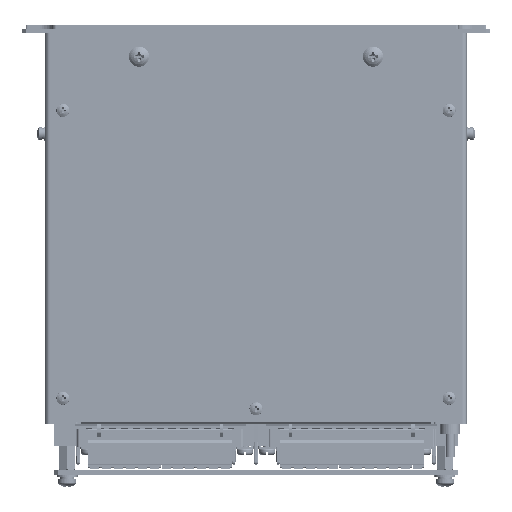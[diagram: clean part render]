
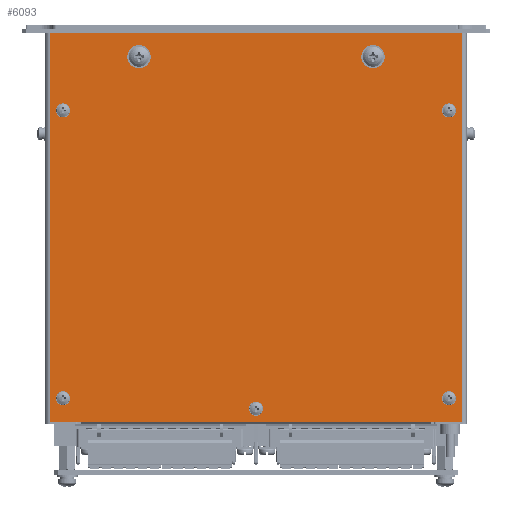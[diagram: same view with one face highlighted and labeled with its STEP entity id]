
A CAD part, left-side view. The second image highlights one B-rep face of the part: STEP entity #6093.
In plain terms, the highlighted planar face has unit normal (-1, 0, 0) as drawn and (0, 0, 1) by its records, which use the part's own axes.
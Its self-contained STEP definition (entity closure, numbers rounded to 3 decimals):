
#6093=ADVANCED_FACE('',(#98079,#98081,#98083,#98085,#98087,#98089,#98091,#98093),
#98095,.T.);
#98079=FACE_BOUND('',#98080,.T.);
#98080=EDGE_LOOP('',(#183173,#183174,#183175,#183176));
#98081=FACE_BOUND('',#98082,.T.);
#98082=EDGE_LOOP('',(#183177));
#98083=FACE_BOUND('',#98084,.T.);
#98084=EDGE_LOOP('',(#183178));
#98085=FACE_BOUND('',#98086,.T.);
#98086=EDGE_LOOP('',(#183179));
#98087=FACE_BOUND('',#98088,.T.);
#98088=EDGE_LOOP('',(#183180));
#98089=FACE_BOUND('',#98090,.T.);
#98090=EDGE_LOOP('',(#183181));
#98091=FACE_BOUND('',#98092,.T.);
#98092=EDGE_LOOP('',(#183182));
#98093=FACE_BOUND('',#98094,.T.);
#98094=EDGE_LOOP('',(#183183));
#98095=PLANE('',#98096);
#98096=AXIS2_PLACEMENT_3D('',#98097,#98098,#98099);
#98097=CARTESIAN_POINT('',(0.,0.,1.));
#98098=DIRECTION('',(0.,0.,1.));
#98099=DIRECTION('',(1.,0.,0.));
#183173=ORIENTED_EDGE('',*,*,#243131,.T.);
#183174=ORIENTED_EDGE('',*,*,#243132,.T.);
#183175=ORIENTED_EDGE('',*,*,#243133,.T.);
#183176=ORIENTED_EDGE('',*,*,#243134,.T.);
#183177=ORIENTED_EDGE('',*,*,#243135,.T.);
#183178=ORIENTED_EDGE('',*,*,#243136,.T.);
#183179=ORIENTED_EDGE('',*,*,#243137,.T.);
#183180=ORIENTED_EDGE('',*,*,#243138,.T.);
#183181=ORIENTED_EDGE('',*,*,#243139,.T.);
#183182=ORIENTED_EDGE('',*,*,#243140,.T.);
#183183=ORIENTED_EDGE('',*,*,#243141,.T.);
#243131=EDGE_CURVE('',#274172,#274173,#274174,.T.);
#243132=EDGE_CURVE('',#274173,#274175,#274176,.T.);
#243133=EDGE_CURVE('',#274175,#274177,#274178,.T.);
#243134=EDGE_CURVE('',#274177,#274172,#274179,.T.);
#243135=EDGE_CURVE('',#274180,#274180,#274181,.F.);
#243136=EDGE_CURVE('',#274182,#274182,#274183,.F.);
#243137=EDGE_CURVE('',#274184,#274184,#274185,.F.);
#243138=EDGE_CURVE('',#274186,#274186,#274187,.F.);
#243139=EDGE_CURVE('',#274188,#274188,#274189,.F.);
#243140=EDGE_CURVE('',#274190,#274190,#274191,.F.);
#243141=EDGE_CURVE('',#274192,#274192,#274193,.F.);
#274172=VERTEX_POINT('',#325491);
#274173=VERTEX_POINT('',#325492);
#274174=LINE('',#325493,#325494);
#274175=VERTEX_POINT('',#325496);
#274176=LINE('',#325497,#325498);
#274177=VERTEX_POINT('',#325500);
#274178=LINE('',#325501,#325502);
#274179=LINE('',#325504,#325505);
#274180=VERTEX_POINT('',#325507);
#274181=CIRCLE('',#325508,1.75);
#274182=VERTEX_POINT('',#325512);
#274183=CIRCLE('',#325513,2.25);
#274184=VERTEX_POINT('',#325517);
#274185=CIRCLE('',#325518,2.25);
#274186=VERTEX_POINT('',#325522);
#274187=CIRCLE('',#325523,1.75);
#274188=VERTEX_POINT('',#325527);
#274189=CIRCLE('',#325528,1.75);
#274190=VERTEX_POINT('',#325532);
#274191=CIRCLE('',#325533,1.75);
#274192=VERTEX_POINT('',#325537);
#274193=CIRCLE('',#325538,1.75);
#325491=CARTESIAN_POINT('',(83.,88.,1.));
#325492=CARTESIAN_POINT('',(-83.,88.,1.));
#325493=CARTESIAN_POINT('',(83.,88.,1.));
#325494=VECTOR('',#325495,1.);
#325495=DIRECTION('',(-1.,0.,0.));
#325496=CARTESIAN_POINT('',(-83.,-88.,1.));
#325497=CARTESIAN_POINT('',(-83.,88.,1.));
#325498=VECTOR('',#325499,1.);
#325499=DIRECTION('',(0.,-1.,0.));
#325500=CARTESIAN_POINT('',(83.,-88.,1.));
#325501=CARTESIAN_POINT('',(-83.,-88.,1.));
#325502=VECTOR('',#325503,1.);
#325503=DIRECTION('',(1.,0.,0.));
#325504=CARTESIAN_POINT('',(83.,-88.,1.));
#325505=VECTOR('',#325506,1.);
#325506=DIRECTION('',(0.,1.,0.));
#325507=CARTESIAN_POINT('',(79.25,0.,1.));
#325508=AXIS2_PLACEMENT_3D('',#325509,#325510,#325511);
#325509=CARTESIAN_POINT('',(77.5,0.,1.));
#325510=DIRECTION('',(0.,0.,1.));
#325511=DIRECTION('',(1.,0.,0.));
#325512=CARTESIAN_POINT('',(-70.75,50.,1.));
#325513=AXIS2_PLACEMENT_3D('',#325514,#325515,#325516);
#325514=CARTESIAN_POINT('',(-73.,50.,1.));
#325515=DIRECTION('',(0.,0.,1.));
#325516=DIRECTION('',(1.,0.,0.));
#325517=CARTESIAN_POINT('',(-70.75,-50.,1.));
#325518=AXIS2_PLACEMENT_3D('',#325519,#325520,#325521);
#325519=CARTESIAN_POINT('',(-73.,-50.,1.));
#325520=DIRECTION('',(0.,0.,1.));
#325521=DIRECTION('',(1.,0.,0.));
#325522=CARTESIAN_POINT('',(-48.25,82.5,1.));
#325523=AXIS2_PLACEMENT_3D('',#325524,#325525,#325526);
#325524=CARTESIAN_POINT('',(-50.,82.5,1.));
#325525=DIRECTION('',(0.,0.,1.));
#325526=DIRECTION('',(1.,0.,0.));
#325527=CARTESIAN_POINT('',(74.75,82.5,1.));
#325528=AXIS2_PLACEMENT_3D('',#325529,#325530,#325531);
#325529=CARTESIAN_POINT('',(73.,82.5,1.));
#325530=DIRECTION('',(0.,0.,1.));
#325531=DIRECTION('',(1.,0.,0.));
#325532=CARTESIAN_POINT('',(-48.25,-82.5,1.));
#325533=AXIS2_PLACEMENT_3D('',#325534,#325535,#325536);
#325534=CARTESIAN_POINT('',(-50.,-82.5,1.));
#325535=DIRECTION('',(0.,0.,1.));
#325536=DIRECTION('',(1.,0.,0.));
#325537=CARTESIAN_POINT('',(74.75,-82.5,1.));
#325538=AXIS2_PLACEMENT_3D('',#325539,#325540,#325541);
#325539=CARTESIAN_POINT('',(73.,-82.5,1.));
#325540=DIRECTION('',(0.,0.,1.));
#325541=DIRECTION('',(1.,0.,0.));
